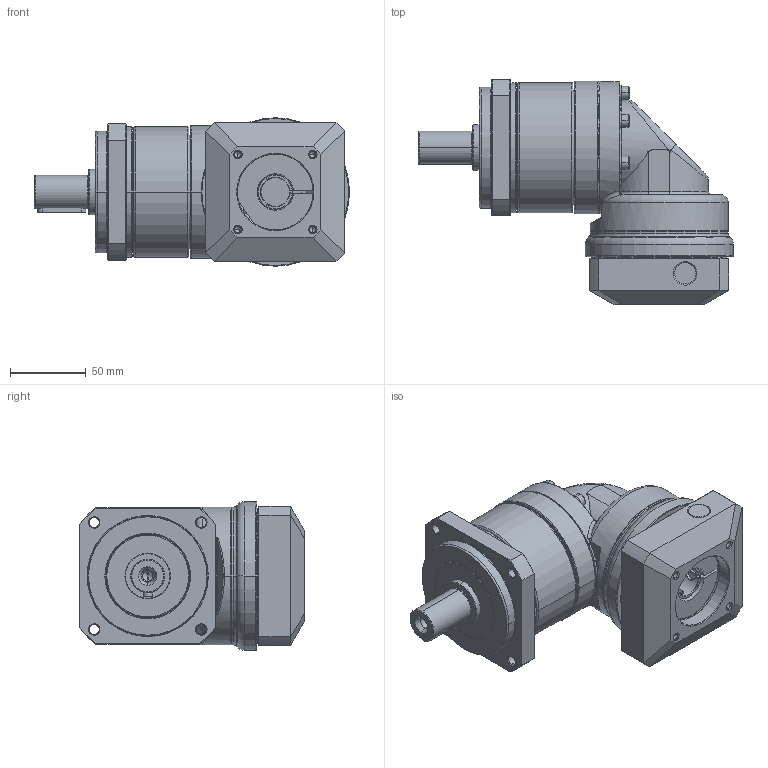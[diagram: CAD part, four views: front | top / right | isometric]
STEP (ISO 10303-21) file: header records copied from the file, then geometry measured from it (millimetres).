
FILE_DESCRIPTION((''),'2;1');
FILE_NAME('PA2R-090_1ST_19-P0411400101_ASM','2016-05-12T',('d01943'),(''),'PRO/ENGINEER BY PARAMETRIC TECHNOLOGY CORPORATION, 2008410','PRO/ENGINEER BY PARAMETRIC TECHNOLOGY CORPORATION, 2008410','');
FILE_SCHEMA(('CONFIG_CONTROL_DESIGN'));
Length unit declared in the file: millimetre
Products named in the file (12): P1327310001; P0250300001; P0350300001; P1349300001; P1017300001; P0713301001; P0503400008; P1350300101; P0411400101; P1702500001; 2111BA05025; PA2R-090_1ST_19-P0411400101_ASM
Assembly tree (16 placements, depth 2):
  PA2R-090_1ST_19-P0411400101_ASM
    P1327310001
    P0250300001
    P0350300001
    P1349300001
    P1017300001
    P0713301001
    P0503400008
    P1350300101
    P0411400101
    P1702500001
    2111BA05025  x6
Bounding box: 208 x 148.5 x 98 mm (x, y, z)
Volume: 841774.8 mm3; surface area: 206450.3 mm2
Topology: 16 solids, 16 shells, 808 faces, 1772 edges, 1024 vertices
Faces by surface type: cylinder 244, cone 232, plane 202, torus 98, bspline 32
Entity records: 23692 total; most frequent: CARTESIAN_POINT 9248, DIRECTION 3201, ORIENTED_EDGE 2792, EDGE_CURVE 1396, AXIS2_PLACEMENT_3D 1346, VERTEX_POINT 824, EDGE_LOOP 730, CIRCLE 707
